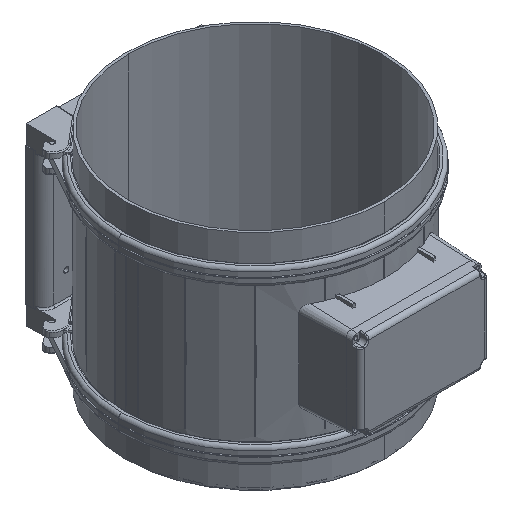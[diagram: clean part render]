
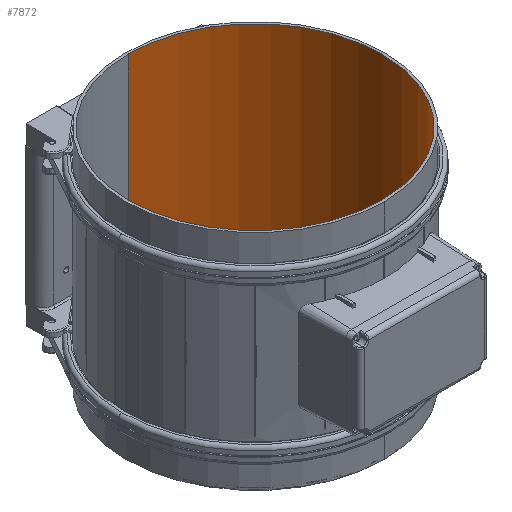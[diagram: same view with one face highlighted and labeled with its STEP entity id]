
A CAD part, isometric view. The second image highlights one B-rep face of the part: STEP entity #7872.
In plain terms, the highlighted cylindrical face has radius 122.055 mm (diameter 244.11 mm), a partial arc.
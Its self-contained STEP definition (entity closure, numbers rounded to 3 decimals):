
#6 = VERTEX_POINT ( 'NONE', #19633 ) ;
#19 = VERTEX_POINT ( 'NONE', #19729 ) ;
#345 = AXIS2_PLACEMENT_3D ( 'NONE', #5046, #5041, #5040 ) ;
#378 = ORIENTED_EDGE ( 'NONE', *, *, #36244, .F. ) ;
#979 = CARTESIAN_POINT ( 'NONE',  ( 4.5, -121.972, 213.033 ) ) ;
#982 = CARTESIAN_POINT ( 'NONE',  ( 4.5, -121.972, 213.298 ) ) ;
#983 = CARTESIAN_POINT ( 'NONE',  ( 4.391, -121.976, 213.557 ) ) ;
#984 = CARTESIAN_POINT ( 'NONE',  ( 4.115, -121.986, 213.833 ) ) ;
#985 = CARTESIAN_POINT ( 'NONE',  ( 4.004, -121.989, 213.907 ) ) ;
#986 = CARTESIAN_POINT ( 'NONE',  ( 3.762, -121.997, 214.007 ) ) ;
#992 = CARTESIAN_POINT ( 'NONE',  ( 3.632, -122.001, 214.033 ) ) ;
#993 = CARTESIAN_POINT ( 'NONE',  ( 3.5, -122.005, 214.033 ) ) ;
#1797 = EDGE_CURVE ( 'NONE', #27130, #19, #13461, .T. ) ;
#3276 = DIRECTION ( 'NONE',  ( 0., 0., -1. ) ) ;
#3432 = CARTESIAN_POINT ( 'NONE',  ( 0., 122.055, 0. ) ) ;
#4651 = DIRECTION ( 'NONE',  ( 0., 0., -1. ) ) ;
#4743 = CARTESIAN_POINT ( 'NONE',  ( 0., -122.055, 0. ) ) ;
#5040 = DIRECTION ( 'NONE',  ( 0., 1., 0. ) ) ;
#5041 = DIRECTION ( 'NONE',  ( 0., 0., -1. ) ) ;
#5046 = CARTESIAN_POINT ( 'NONE',  ( 0., 0., 0. ) ) ;
#5564 = DIRECTION ( 'NONE',  ( 0., 0., -1. ) ) ;
#5645 = CARTESIAN_POINT ( 'NONE',  ( 0., -122.055, 0. ) ) ;
#7123 = AXIS2_PLACEMENT_3D ( 'NONE', #31339, #31340, #31341 ) ;
#7872 = ADVANCED_FACE ( 'NONE', ( #16095 ), #16096, .F. ) ;
#8120 = VERTEX_POINT ( 'NONE', #12542 ) ;
#8159 = VERTEX_POINT ( 'NONE', #12589 ) ;
#8253 = VERTEX_POINT ( 'NONE', #12333 ) ;
#9385 = ORIENTED_EDGE ( 'NONE', *, *, #22220, .T. ) ;
#9509 = ORIENTED_EDGE ( 'NONE', *, *, #28698, .F. ) ;
#9556 = ORIENTED_EDGE ( 'NONE', *, *, #34354, .T. ) ;
#10035 = CARTESIAN_POINT ( 'NONE',  ( 0., 0., 214.033 ) ) ;
#10036 = DIRECTION ( 'NONE',  ( 0., 0., 1. ) ) ;
#10037 = DIRECTION ( 'NONE',  ( 1., 0., 0. ) ) ;
#11193 = CIRCLE ( 'NONE', #21240, 122.055 ) ;
#11884 = CIRCLE ( 'NONE', #15118, 122.055 ) ;
#12333 = CARTESIAN_POINT ( 'NONE',  ( 0., 122.055, 282.813 ) ) ;
#12542 = CARTESIAN_POINT ( 'NONE',  ( 0., -122.055, 70.213 ) ) ;
#12589 = CARTESIAN_POINT ( 'NONE',  ( 0., -122.055, 214.033 ) ) ;
#13461 = B_SPLINE_CURVE_WITH_KNOTS ( 'NONE', 3,
 ( #15403, #15417, #15400, #15397, #15395, #15394, #15393, #15392, #15391, #15390, #15389, #15388, #15387, #15386, #15385, #15384, #15484, #15483 ),
 .UNSPECIFIED., .F., .F.,
 ( 4, 2, 2, 2, 2, 2, 2, 2, 4 ),
 ( 0., 0.001, 0.002, 0.003, 0.004, 0.004, 0.005, 0.006, 0.007 ),
 .UNSPECIFIED. ) ;
#15118 = AXIS2_PLACEMENT_3D ( 'NONE', #10035, #10036, #10037 ) ;
#15384 = CARTESIAN_POINT ( 'NONE',  ( 0.591, -122.054, 201.063 ) ) ;
#15385 = CARTESIAN_POINT ( 'NONE',  ( 1.172, -122.05, 201.179 ) ) ;
#15386 = CARTESIAN_POINT ( 'NONE',  ( 1.455, -122.047, 201.265 ) ) ;
#15387 = CARTESIAN_POINT ( 'NONE',  ( 1.996, -122.039, 201.49 ) ) ;
#15388 = CARTESIAN_POINT ( 'NONE',  ( 2.258, -122.034, 201.63 ) ) ;
#15389 = CARTESIAN_POINT ( 'NONE',  ( 2.749, -122.024, 201.959 ) ) ;
#15390 = CARTESIAN_POINT ( 'NONE',  ( 2.976, -122.019, 202.145 ) ) ;
#15391 = CARTESIAN_POINT ( 'NONE',  ( 3.39, -122.008, 202.56 ) ) ;
#15392 = CARTESIAN_POINT ( 'NONE',  ( 3.58, -122.003, 202.792 ) ) ;
#15393 = CARTESIAN_POINT ( 'NONE',  ( 3.907, -121.993, 203.281 ) ) ;
#15394 = CARTESIAN_POINT ( 'NONE',  ( 4.045, -121.988, 203.539 ) ) ;
#15395 = CARTESIAN_POINT ( 'NONE',  ( 4.27, -121.98, 204.084 ) ) ;
#15397 = CARTESIAN_POINT ( 'NONE',  ( 4.357, -121.977, 204.369 ) ) ;
#15400 = CARTESIAN_POINT ( 'NONE',  ( 4.471, -121.973, 204.944 ) ) ;
#15403 = CARTESIAN_POINT ( 'NONE',  ( 4.5, -121.972, 205.533 ) ) ;
#15417 = CARTESIAN_POINT ( 'NONE',  ( 4.5, -121.972, 205.236 ) ) ;
#15483 = CARTESIAN_POINT ( 'NONE',  ( 0., -122.055, 201.033 ) ) ;
#15484 = CARTESIAN_POINT ( 'NONE',  ( 0.297, -122.055, 201.033 ) ) ;
#16095 = FACE_OUTER_BOUND ( 'NONE', #32619, .T. ) ;
#16096 = CYLINDRICAL_SURFACE ( 'NONE', #345, 122.055 ) ;
#16545 = LINE ( 'NONE', #4743, #16548 ) ;
#16548 = VECTOR ( 'NONE', #4651, 1000. ) ;
#16614 = LINE ( 'NONE', #5645, #16621 ) ;
#16621 = VECTOR ( 'NONE', #5564, 1000. ) ;
#16747 = LINE ( 'NONE', #3432, #16748 ) ;
#16748 = VECTOR ( 'NONE', #3276, 1000. ) ;
#19633 = CARTESIAN_POINT ( 'NONE',  ( 3.5, -122.005, 214.033 ) ) ;
#19729 = CARTESIAN_POINT ( 'NONE',  ( 0., -122.055, 201.033 ) ) ;
#21240 = AXIS2_PLACEMENT_3D ( 'NONE', #35236, #35454, #35273 ) ;
#21417 = B_SPLINE_CURVE_WITH_KNOTS ( 'NONE', 3,
 ( #993, #992, #986, #985, #984, #983, #982, #979 ),
 .UNSPECIFIED., .F., .F.,
 ( 4, 2, 2, 4 ),
 ( 0., 0., 0.001, 0.002 ),
 .UNSPECIFIED. ) ;
#21930 = EDGE_CURVE ( 'NONE', #19, #8120, #16545, .T. ) ;
#22043 = EDGE_CURVE ( 'NONE', #30017, #8159, #16614, .T. ) ;
#22220 = EDGE_CURVE ( 'NONE', #8253, #27114, #16747, .T. ) ;
#23262 = ORIENTED_EDGE ( 'NONE', *, *, #21930, .F. ) ;
#23313 = ORIENTED_EDGE ( 'NONE', *, *, #22043, .F. ) ;
#23555 = ORIENTED_EDGE ( 'NONE', *, *, #28831, .F. ) ;
#23568 = ORIENTED_EDGE ( 'NONE', *, *, #29029, .F. ) ;
#23606 = ORIENTED_EDGE ( 'NONE', *, *, #1797, .F. ) ;
#25479 = CARTESIAN_POINT ( 'NONE',  ( 4.5, -121.972, 496.023 ) ) ;
#25485 = DIRECTION ( 'NONE',  ( 0., 0., -1. ) ) ;
#27114 = VERTEX_POINT ( 'NONE', #32013 ) ;
#27130 = VERTEX_POINT ( 'NONE', #31649 ) ;
#28698 = EDGE_CURVE ( 'NONE', #8120, #27114, #11193, .T. ) ;
#28831 = EDGE_CURVE ( 'NONE', #6, #30009, #21417, .T. ) ;
#29029 = EDGE_CURVE ( 'NONE', #8159, #6, #11884, .T. ) ;
#30009 = VERTEX_POINT ( 'NONE', #30627 ) ;
#30017 = VERTEX_POINT ( 'NONE', #30632 ) ;
#30627 = CARTESIAN_POINT ( 'NONE',  ( 4.5, -121.972, 213.033 ) ) ;
#30632 = CARTESIAN_POINT ( 'NONE',  ( 0., -122.055, 282.813 ) ) ;
#31339 = CARTESIAN_POINT ( 'NONE',  ( 0., 0., 282.813 ) ) ;
#31340 = DIRECTION ( 'NONE',  ( 0., 0., 1. ) ) ;
#31341 = DIRECTION ( 'NONE',  ( 0., -1., 0. ) ) ;
#31649 = CARTESIAN_POINT ( 'NONE',  ( 4.5, -121.972, 205.533 ) ) ;
#32013 = CARTESIAN_POINT ( 'NONE',  ( 0., 122.055, 70.213 ) ) ;
#32619 = EDGE_LOOP ( 'NONE', ( #23313, #9556, #9385, #9509, #23262, #23606, #378, #23555, #23568 ) ) ;
#33767 = CIRCLE ( 'NONE', #7123, 122.055 ) ;
#34020 = LINE ( 'NONE', #25479, #34029 ) ;
#34029 = VECTOR ( 'NONE', #25485, 1000. ) ;
#34354 = EDGE_CURVE ( 'NONE', #30017, #8253, #33767, .T. ) ;
#35236 = CARTESIAN_POINT ( 'NONE',  ( 0., 0., 70.213 ) ) ;
#35273 = DIRECTION ( 'NONE',  ( 1., 0., 0. ) ) ;
#35454 = DIRECTION ( 'NONE',  ( 0., 0., 1. ) ) ;
#36244 = EDGE_CURVE ( 'NONE', #30009, #27130, #34020, .T. ) ;
